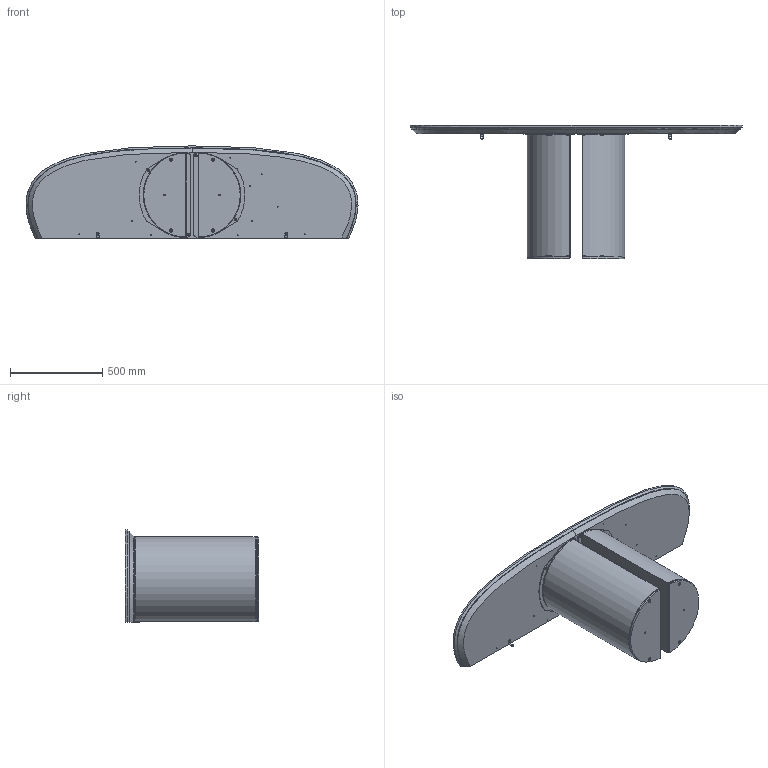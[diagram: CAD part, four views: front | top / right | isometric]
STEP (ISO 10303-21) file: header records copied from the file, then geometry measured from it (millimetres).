
FILE_DESCRIPTION (( 'STEP AP203' ), '1' );
FILE_NAME ('DR80M_Dora Console_180x50x72h_Marble Shaped.STEP', '2024-08-06T09:42:34', ( '' ), ( '' ), 'SwSTEP 2.0', 'SolidWorks 2022', '' );
FILE_SCHEMA (( 'CONFIG_CONTROL_DESIGN' ));
Length unit declared in the file: millimetre
Products named in the file (12): TRUXXXX-02-NOBILITATO Sasso per console_180x50; M6xXXmm_HEX_M6x20mm HEX; Assieme Basamento PLAI_Basamento per consolle; PLA000000BAS-00-PLAI BASE GREZZA; KXXXX-00-piani MARMO Sasso per console_180X50; ROC000001PSx-00-CONSOLEE ROTOLO PIASTRA FISSAGGIO_STAFFA CORTA; DR80M_Dora Console_180x50x72h_Marble Shaped; M8xXXmm_hex_M8X20mm; M6xXXmm_M6x20mm; DOR000V01PST-00-DORA PIASTRA TELAIO; KXXXX-00-piani MARMO Sasso per console_180x50; PLA000000ZOC-01-PLAI ZOCCOLO DELLA BASE
Assembly tree (18 placements, depth 3):
  DR80M_Dora Console_180x50x72h_Marble Shaped
    KXXXX-00-piani MARMO Sasso per console_180X50
      TRUXXXX-02-NOBILITATO Sasso per console_180x50
      KXXXX-00-piani MARMO Sasso per console_180x50
    Assieme Basamento PLAI_Basamento per consolle  x2
      PLA000000BAS-00-PLAI BASE GREZZA
      DOR000V01PST-00-DORA PIASTRA TELAIO
      PLA000000ZOC-01-PLAI ZOCCOLO DELLA BASE
      M8xXXmm_hex_M8X20mm
    M6xXXmm_M6x20mm  x2
    ROC000001PSx-00-CONSOLEE ROTOLO PIASTRA FISSAGGIO_STAFFA CORTA  x2
    M6xXXmm_HEX_M6x20mm HEX  x4
Bounding box: 1799.9 x 723 x 500 mm (x, y, z)
Volume: 41255310.7 mm3; surface area: 7607166.3 mm2
Topology: 26 solids, 26 shells, 652 faces, 1456 edges, 826 vertices
Faces by surface type: plane 282, cylinder 200, cone 138, torus 24, bspline 8
Entity records: 12628 total; most frequent: CARTESIAN_POINT 4267, DIRECTION 1558, ORIENTED_EDGE 1326, EDGE_CURVE 663, AXIS2_PLACEMENT_3D 613, VERTEX_POINT 404, EDGE_LOOP 359, LINE 332
